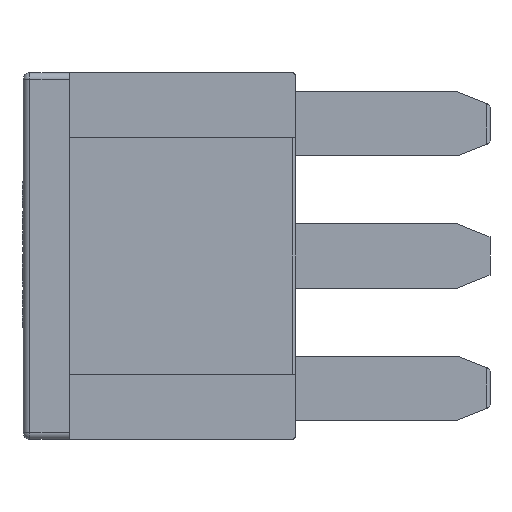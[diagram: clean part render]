
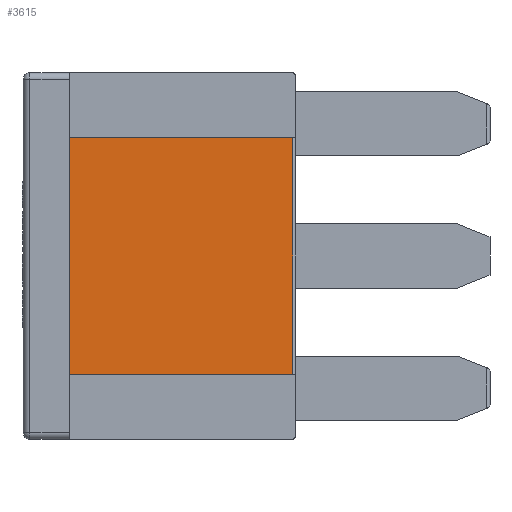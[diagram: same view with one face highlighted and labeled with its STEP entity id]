
A CAD part, left-side view. The second image highlights one B-rep face of the part: STEP entity #3615.
In plain terms, the highlighted planar face has unit normal (-1, 0, 0).
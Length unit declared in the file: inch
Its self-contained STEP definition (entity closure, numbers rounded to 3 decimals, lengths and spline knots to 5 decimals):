
#325=FACE_OUTER_BOUND('',#532,.T.);
#532=EDGE_LOOP('',(#2491,#2492,#2493,#2494));
#787=LINE('',#4861,#1160);
#790=LINE('',#4870,#1163);
#791=LINE('',#4874,#1164);
#792=LINE('',#4875,#1165);
#1160=VECTOR('',#4101,0.3937);
#1163=VECTOR('',#4110,0.3937);
#1164=VECTOR('',#4115,0.3937);
#1165=VECTOR('',#4116,0.3937);
#1522=VERTEX_POINT('',#4855);
#1524=VERTEX_POINT('',#4859);
#1527=VERTEX_POINT('',#4869);
#1528=VERTEX_POINT('',#4873);
#1900=EDGE_CURVE('',#1522,#1524,#787,.T.);
#1904=EDGE_CURVE('',#1522,#1527,#790,.T.);
#1906=EDGE_CURVE('',#1528,#1524,#791,.T.);
#1907=EDGE_CURVE('',#1528,#1527,#792,.T.);
#2491=ORIENTED_EDGE('',*,*,#1900,.T.);
#2492=ORIENTED_EDGE('',*,*,#1906,.F.);
#2493=ORIENTED_EDGE('',*,*,#1907,.T.);
#2494=ORIENTED_EDGE('',*,*,#1904,.F.);
#3500=PLANE('',#3846);
#3615=ADVANCED_FACE('',(#325),#3500,.T.);
#3846=AXIS2_PLACEMENT_3D('',#4872,#4113,#4114);
#4101=DIRECTION('',(0.,1.,0.));
#4110=DIRECTION('',(0.,0.,-1.));
#4113=DIRECTION('center_axis',(-1.,0.,0.));
#4114=DIRECTION('ref_axis',(0.,-1.,0.));
#4115=DIRECTION('',(0.,0.,1.));
#4116=DIRECTION('',(0.,-1.,0.));
#4855=CARTESIAN_POINT('',(-0.06768,-0.41332,0.1815));
#4859=CARTESIAN_POINT('',(-0.06768,-0.07087,0.1815));
#4861=CARTESIAN_POINT('',(-0.06768,-0.24409,0.1815));
#4869=CARTESIAN_POINT('',(-0.06768,-0.41332,-0.1815));
#4870=CARTESIAN_POINT('',(-0.06768,-0.41332,-0.2815));
#4872=CARTESIAN_POINT('Origin',(-0.06768,-0.07087,
-0.2815));
#4873=CARTESIAN_POINT('',(-0.06768,-0.07087,-0.1815));
#4874=CARTESIAN_POINT('',(-0.06768,-0.07087,-0.14075));
#4875=CARTESIAN_POINT('',(-0.06768,-0.24409,-0.1815));
